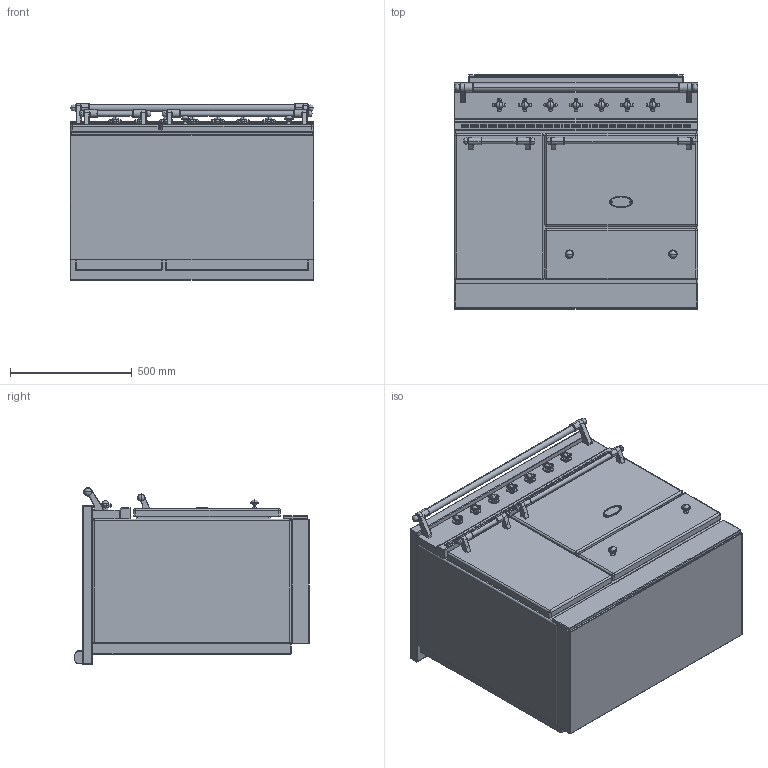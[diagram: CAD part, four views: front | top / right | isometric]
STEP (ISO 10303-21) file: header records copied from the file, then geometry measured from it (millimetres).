
FILE_DESCRIPTION((''),'2;1');
FILE_NAME('VUES_DXF_ASM','2021-12-02T07:54:47',('r.avril'),(''),'CREO PARAMETRIC BY PTC INC, 2017260','CREO PARAMETRIC BY PTC INC, 2017260','');
FILE_SCHEMA(('AP203_CONFIGURATION_CONTROLLED_3D_DESIGN_OF_MECHANICAL_PARTS_AND_ASSEMBLIES_MIM_LF { 1 0 10303 403 2 1 2 }'));
Products named in the file (19): BASE_EXPORT_VOLNAY; 65650003; 65650004; 6531940; 6531941; 6531943; 65049009; 65650001; 6538399; 1931942; 65080022_AF0; 6531942_ASM; BASE_EXPORT_VOLNAY_ASM; TABLE_1000_INDUCTION; 65052013; CHEMINEE_2020_LG882_EXPORT_STEP; TABLE_1000_INDUCTION_ASM; LVI1051_VOLNAY_ASM; VUES_DXF_ASM
Assembly tree (27 placements, depth 5):
  VUES_DXF_ASM
    LVI1051_VOLNAY_ASM
      BASE_EXPORT_VOLNAY_ASM
        BASE_EXPORT_VOLNAY
        65650003
        65650004
        6531940  x2
        6531941  x2
        6531943  x2
        65049009
        65650001
        6531942_ASM  x7
          6538399
          1931942
          65080022_AF0
      TABLE_1000_INDUCTION_ASM
        TABLE_1000_INDUCTION
        65052013
        CHEMINEE_2020_LG882_EXPORT_STEP
Bounding box: 1000 x 963 x 724 mm (x, y, z)
Volume: 542466155.2 mm3; surface area: 8958333.4 mm2
Topology: 42 solids, 50 shells, 4909 faces, 13356 edges, 8569 vertices
Faces by surface type: plane 2637, cylinder 1518, torus 199, extrusion 198, sphere 186, cone 83, bspline 76, revolution 12
Entity records: 113780 total; most frequent: CARTESIAN_POINT 24475, ORIENTED_EDGE 16072, DIRECTION 15227, EDGE_CURVE 8046, VECTOR 5526, LINE 5496, VERTEX_POINT 5227, AXIS2_PLACEMENT_3D 4820
